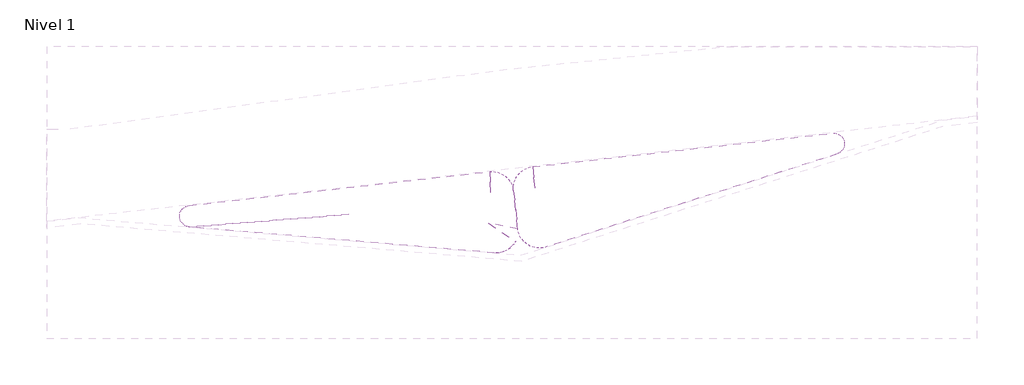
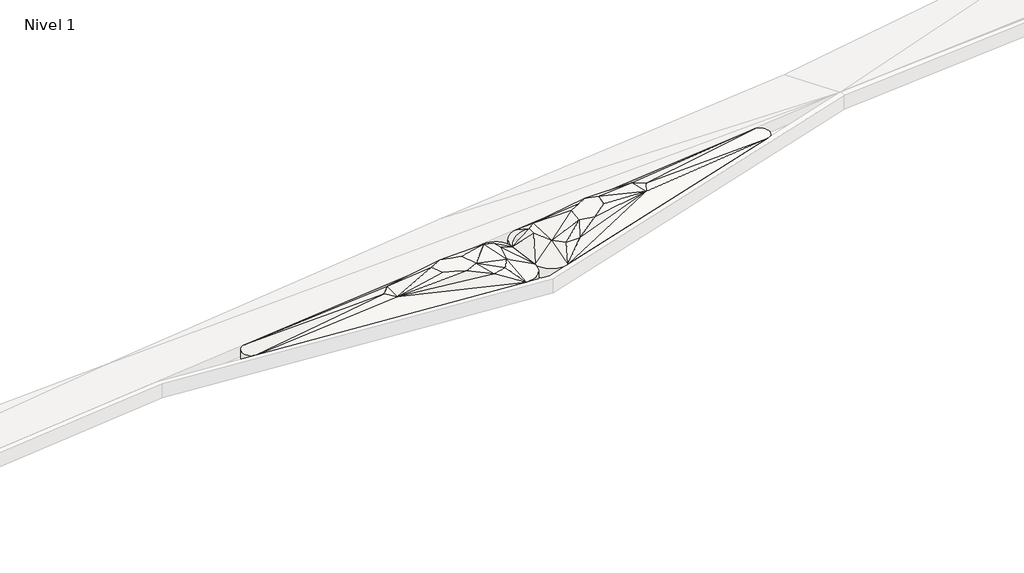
# One storey, part 16 of 45: 2 slabs.
"""IFC4 building model written with IfcOpenShell, lengths in millimetres."""

from ifc_helpers import new_model, si_unit, frame, origin, place, context, project, spatial, polyline, circle_curve, element, save
from ifc_brep_helpers import plane_surface, cylinder_surface, revolved_surface, spline_surface, advanced_brep

model = new_model("IFC4")

# Units and contexts
model_context = context("Model", 3, world=origin())
ifc_project = project(units=[si_unit("LENGTHUNIT", "METRE", prefix="MILLI")], contexts=[model_context])

# Site, building, storey
site = spatial("IfcSite", under=ifc_project)
building = spatial("IfcBuilding", under=site)
storey = spatial("IfcBuildingStorey", under=building, Name="Nivel 1", Elevation=0.0)

# Slabs
placement = place(None, origin())
element("IfcSlab", 1, ObjectType="Lippia", at=placement, inside=storey, context=model_context, shape_type="AdvancedBrep", body=[
    advanced_brep(
    [(-208217.2483904, -92052.1232078, 4850.0), (-208217.2483904, -92052.1232078, 5150.0), (-208116.8644691, -92939.8007908, 5150.0), (-208116.8644691, -92939.8007908, 4850.0), (-208657.6500706, -93494.0508119, 5150.0), (-208657.6500706, -93494.0508119, 4850.0), (-215694.0454996, -92895.9101088, 5150.0), (-215694.0454996, -92895.9101088, 4850.0), (-215699.7019788, -92398.2482784, 4850.0), (-215699.7019788, -92398.2482784, 5150.0), (-208768.0150372, -91614.481995, 5150.0), (-208768.0150372, -91614.481995, 4850.0), (-208800.2932684, -92807.5708415, 5450.0), (-208684.7787536, -92320.5047485, 5450.0), (-208800.2932684, -92807.5708415, 5150.0), (-208684.7787536, -92320.5047485, 5150.0), (-210521.9501568, -92761.7593416, 5650.0), (-210258.9210116, -92883.2718863, 5650.0), (-209995.8918664, -93004.784431, 5650.0), (-209651.0172041, -92847.7241124, 5650.0), (-209800.9157462, -92424.2190245, 5650.0), (-210081.8817119, -92357.2844661, 5650.0), (-210313.9250573, -92302.00475, 5650.0), (-210655.7768606, -92454.0387562, 5650.0), (-210521.9501568, -92761.7593416, 5350.0), (-210655.7768606, -92454.0387562, 5350.0), (-210313.9250573, -92302.00475, 5350.0), (-210081.8817119, -92357.2844661, 5350.0), (-209800.9157462, -92424.2190245, 5350.0), (-209651.0172041, -92847.7241124, 5350.0), (-209995.8918664, -93004.784431, 5350.0), (-210258.9210116, -92883.2718863, 5350.0), (-208959.422241, -92014.8028222, 5450.0), (-208742.0625932, -92095.7475028, 5450.0), (-208959.422241, -92014.8028222, 5150.0), (-208742.0625932, -92095.7475028, 5150.0), (-209004.1604189, -93108.4627505, 5450.0), (-209004.1604189, -93108.4627505, 5150.0), (-209357.928988, -93191.80275, 5450.0), (-211805.4849536, -92856.5103963, 5450.0), (-211805.4849536, -92856.5103963, 5150.0), (-209357.928988, -93191.80275, 5150.0), (-211801.730065, -92360.6512561, 5450.0), (-211801.730065, -92360.6512561, 5150.0), (-212021.5465967, -92606.9412004, 5450.0), (-212021.5465967, -92606.9412004, 5150.0)],
    [
        (0, 1),
        (1, 2),
        (2, 3),
        (3, 0),
        (2, 4, circle_curve(frame((-208613.7011199, -92995.9860682, 5150.0), z_axis=(0.0, 0.0, -1.0), x_axis=(0.19992039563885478, -0.979812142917, 0.0)), 499.9999992)),
        (4, 5),
        (5, 3, circle_curve(frame((-208613.7011199, -92995.9860682, 4850.0), z_axis=(0.0, 0.0, 1.0), x_axis=(0.19992039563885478, -0.979812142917, 0.0)), 499.9999992)),
        (4, 6),
        (6, 7),
        (7, 5),
        (8, 9),
        (9, 10),
        (10, 11),
        (11, 8),
        (10, 1, circle_curve(frame((-208713.7074066, -92111.5239263, 5150.0), z_axis=(0.0, 0.0, -1.0), x_axis=(0.19992039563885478, -0.979812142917, 0.0)), 500.0000001)),
        (0, 11, circle_curve(frame((-208713.7074066, -92111.5239263, 4850.0), z_axis=(0.0, 0.0, 1.0), x_axis=(0.19992039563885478, -0.979812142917, 0.0)), 500.0000001)),
        (2, 12),
        (12, 4),
        (1, 13),
        (13, 2),
        (5, 14),
        (14, 3),
        (3, 15),
        (15, 0),
        (16, 17),
        (17, 18),
        (18, 19),
        (19, 20),
        (20, 21),
        (21, 22),
        (22, 23),
        (23, 16),
        (24, 25),
        (25, 26),
        (26, 27),
        (27, 28),
        (28, 29),
        (29, 30),
        (30, 31),
        (31, 24),
        (20, 32),
        (32, 22),
        (10, 32),
        (32, 33),
        (33, 10),
        (19, 32),
        (26, 34),
        (34, 28),
        (11, 35),
        (35, 34),
        (34, 11),
        (34, 29),
        (32, 12),
        (12, 13),
        (13, 33),
        (19, 12),
        (12, 36),
        (36, 4),
        (35, 15),
        (15, 14),
        (14, 34),
        (14, 29),
        (5, 37),
        (37, 14),
        (4, 38),
        (38, 39),
        (39, 4),
        (19, 38),
        (38, 36),
        (36, 19),
        (5, 40),
        (40, 41),
        (41, 5),
        (29, 37),
        (37, 41),
        (41, 29),
        (22, 42),
        (42, 23),
        (23, 39),
        (39, 16),
        (39, 18),
        (25, 43),
        (43, 26),
        (24, 40),
        (40, 25),
        (30, 40),
        (42, 39),
        (40, 43),
        (1, 33),
        (35, 0),
        (10, 42),
        (42, 32),
        (42, 44),
        (44, 39),
        (18, 38),
        (34, 43),
        (43, 11),
        (40, 45),
        (45, 43),
        (41, 30),
        (6, 9, circle_curve(frame((-215672.8698284, -92646.8041783, 5150.0), z_axis=(0.0, 0.0, -1.0), x_axis=(0.19992039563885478, -0.979812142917, 0.0)), 249.9999994)),
        (8, 7, circle_curve(frame((-215672.8698284, -92646.8041783, 4850.0), z_axis=(0.0, 0.0, 1.0), x_axis=(0.19992039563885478, -0.979812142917, 0.0)), 249.9999994)),
        (9, 42),
        (9, 44),
        (6, 44),
        (6, 39),
        (43, 8),
        (45, 8),
        (45, 7),
        (40, 7),
    ],
    [
        plane_surface(frame((-208217.2483904, -92052.1232078, 4850.0), z_axis=(0.9936664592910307, 0.11236978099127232, 0.0), x_axis=(0.0, 0.0, 1.0))),
        cylinder_surface(frame((-208613.7011199, -92995.9860682, 5150.0), z_axis=(0.0, 0.0, -1.0), x_axis=(0.19992039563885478, -0.979812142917, 0.0)), 499.9999992),
        plane_surface(frame((-208657.6500706, -93494.0508119, 4850.0), z_axis=(-0.0847012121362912, -0.996406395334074, 0.0), x_axis=(0.0, 0.0, 1.0))),
        plane_surface(frame((-215699.7019788, -92398.2482784, 4850.0), z_axis=(-0.11235412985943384, 0.9936682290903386, 0.0), x_axis=(0.0, 0.0, 1.0))),
        cylinder_surface(frame((-208713.7074066, -92111.5239263, 5150.0), z_axis=(0.0, 0.0, -1.0), x_axis=(0.19992039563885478, -0.979812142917, 0.0)), 500.0000001),
        spline_surface(2, 1, [[(-208657.6500706, -93494.0508119, 5150.0), (-208800.2932684, -92807.5708415, 5450.0)], [(-208421.4321099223, -93514.89455087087, 5150.0), (-208800.2932684, -92807.5708415, 5450.0)], [(-208255.8265516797, -93345.1648083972, 5150.0), (-208800.2932684, -92807.5708415, 5450.0)], [(-208090.22099343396, -93175.43506595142, 5150.0), (-208800.2932684, -92807.5708415, 5450.0)], [(-208116.8678911, -92939.8011778, 5150.0), (-208800.2932684, -92807.5708415, 5450.0)]], [3, 2, 3], [2, 2], [0.0, 1.0, 2.0], [0.0, 1.0], weights=[[1.0, 1.0], [0.903532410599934, 0.903532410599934], [1.0, 1.0], [0.9035324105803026, 0.9035324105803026], [1.0, 1.0]]),
        plane_surface(frame((-208339.6305377, -92437.4762491, 5250.0), z_axis=(0.5152266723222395, 0.058264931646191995, 0.855071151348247), x_axis=(-0.11236978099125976, 0.9936664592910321, 0.0))),
        spline_surface(1, 2, [[(-208657.6500706, -93494.0508119, 4850.0), (-208421.4321099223, -93514.89455087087, 4850.0), (-208255.8265516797, -93345.1648083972, 4850.0), (-208090.22099343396, -93175.43506595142, 4850.0), (-208116.8678911, -92939.8011778, 4850.0)], [(-208800.2932684, -92807.5708415, 5150.0), (-208800.2932684, -92807.5708415, 5150.0), (-208800.2932684, -92807.5708415, 5150.0), (-208800.2932684, -92807.5708415, 5150.0), (-208800.2932684, -92807.5708415, 5150.0)]], [2, 2], [3, 2, 3], [0.0, 1.0], [0.0, 1.0, 2.0], weights=[[1.0, 0.903532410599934, 1.0, 0.9035324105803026, 1.0], [1.0, 0.903532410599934, 1.0, 0.9035324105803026, 1.0]]),
        plane_surface(frame((-208339.6305377, -92437.4762491, 4950.0), z_axis=(-0.5152266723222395, -0.058264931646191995, -0.855071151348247), x_axis=(-0.11236978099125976, 0.9936664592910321, 0.0))),
        plane_surface(frame((-210156.5794819, -92632.4217359, 5650.0), z_axis=(0.0, 0.0, 1.0000000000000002), x_axis=(0.9078089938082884, -0.4193838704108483, 0.0))),
        plane_surface(frame((-210156.5794819, -92632.4217359, 5350.0), z_axis=(0.0, 0.0, -1.0000000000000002), x_axis=(0.9078089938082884, -0.4193838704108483, 0.0))),
        plane_surface(frame((-209691.4210148, -92247.0088655, 5583.3333333), z_axis=(0.07402966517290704, 0.31074854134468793, 0.9476048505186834), x_axis=(0.9727766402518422, -0.23174470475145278, 0.0))),
        plane_surface(frame((-208823.1666238, -91908.3441066, 5350.0), z_axis=(0.19600328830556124, 0.5263249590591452, 0.8273842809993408), x_axis=(-0.35735341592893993, -0.7473909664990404, 0.5600939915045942))),
        plane_surface(frame((-209470.4517304, -92428.9153197, 5583.3333333), z_axis=(0.19822329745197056, 0.0701606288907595, 0.9776425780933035), x_axis=(0.628187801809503, 0.7565569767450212, -0.18166349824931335))),
        plane_surface(frame((-209691.4210148, -92247.0088655, 5283.3333333), z_axis=(-0.07402966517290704, -0.31074854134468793, -0.9476048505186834), x_axis=(0.9727766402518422, -0.23174470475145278, 0.0))),
        plane_surface(frame((-208823.1666238, -91908.3441066, 5050.0), z_axis=(-0.19600328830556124, -0.5263249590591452, -0.8273842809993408), x_axis=(-0.35735341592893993, -0.7473909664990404, 0.5600939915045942))),
        plane_surface(frame((-209470.4517304, -92428.9153197, 5283.3333333), z_axis=(-0.19822329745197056, -0.0701606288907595, -0.9776425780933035), x_axis=(0.628187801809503, 0.7565569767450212, -0.18166349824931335))),
        plane_surface(frame((-208796.6392141, -92309.6564788, 5450.0), z_axis=(0.0, 0.0, 1.0000000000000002), x_axis=(0.19680029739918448, -0.9804435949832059, 0.0))),
        plane_surface(frame((-209136.9109045, -92556.6992587, 5516.6666667), z_axis=(0.22658309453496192, 0.045481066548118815, 0.972929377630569), x_axis=(0.972434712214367, 0.04589789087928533, -0.22861346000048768))),
        plane_surface(frame((-208820.7012526, -93136.6948013, 5350.0), z_axis=(0.4239710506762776, -0.28725853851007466, 0.8589127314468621), x_axis=(-0.1870415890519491, 0.900150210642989, 0.3933764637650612))),
        plane_surface(frame((-208533.9788304, -92689.292127, 5350.0), z_axis=(0.3853808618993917, -0.09139844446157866, 0.918219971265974), x_axis=(-0.6365191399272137, 0.6941078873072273, 0.3362404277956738))),
        plane_surface(frame((-208796.6392141, -92309.6564788, 5150.0), z_axis=(0.0, 0.0, -1.0000000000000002), x_axis=(0.19680029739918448, -0.9804435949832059, 0.0))),
        plane_surface(frame((-209136.9109045, -92556.6992587, 5216.6666667), z_axis=(-0.22658309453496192, -0.045481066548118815, -0.972929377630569), x_axis=(0.972434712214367, 0.04589789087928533, -0.22861346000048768))),
        plane_surface(frame((-208820.7012526, -93136.6948013, 5050.0), z_axis=(-0.4239710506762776, 0.28725853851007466, -0.8589127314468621), x_axis=(-0.1870415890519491, 0.900150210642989, 0.3933764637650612))),
        plane_surface(frame((-208533.9788304, -92689.292127, 5050.0), z_axis=(-0.3853808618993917, 0.09139844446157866, -0.918219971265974), x_axis=(-0.6365191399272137, 0.6941078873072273, 0.3362404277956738))),
        plane_surface(frame((-209940.3546707, -93180.7879861, 5350.0), z_axis=(-0.11216215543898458, -0.8187575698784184, 0.563076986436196), x_axis=(-0.8544152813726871, 0.3687750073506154, 0.3660321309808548))),
        plane_surface(frame((-209337.7022037, -93049.329871, 5516.6666667), z_axis=(0.10211405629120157, -0.43346224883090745, 0.895367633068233), x_axis=(0.5929864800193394, -0.696152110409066, -0.40464709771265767))),
        plane_surface(frame((-209940.3546707, -93180.7879861, 5050.0), z_axis=(0.11216215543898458, 0.8187575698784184, -0.563076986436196), x_axis=(-0.8544152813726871, 0.3687750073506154, 0.3660321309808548))),
        plane_surface(frame((-209337.7022037, -93049.329871, 5216.6666667), z_axis=(-0.10211405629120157, 0.43346224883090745, -0.895367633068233), x_axis=(0.5929864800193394, -0.696152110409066, -0.40464709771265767))),
        plane_surface(frame((-210923.810661, -92372.2315874, 5583.3333333), z_axis=(-0.13864841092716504, 0.3117539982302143, 0.9399925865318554), x_axis=(0.9137124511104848, 0.40636136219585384, 0.0))),
        plane_surface(frame((-210994.4039903, -92690.769498, 5583.3333333), z_axis=(-0.14896753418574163, -0.06478550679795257, 0.9867175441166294), x_axis=(-0.3988141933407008, 0.9170317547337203, 0.0))),
        plane_surface(frame((-210774.4423256, -92874.3513897, 5583.3333333), z_axis=(-0.12794621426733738, -0.2769556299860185, 0.9523262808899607), x_axis=(-0.985458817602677, -0.0727469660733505, -0.1535538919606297))),
        plane_surface(frame((-210923.810661, -92372.2315874, 5283.3333333), z_axis=(0.13864841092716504, -0.3117539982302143, -0.9399925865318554), x_axis=(0.9137124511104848, 0.40636136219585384, 0.0))),
        plane_surface(frame((-210994.4039903, -92690.769498, 5283.3333333), z_axis=(0.14896753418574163, 0.06478550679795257, -0.9867175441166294), x_axis=(-0.3988141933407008, 0.9170317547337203, 0.0))),
        plane_surface(frame((-210774.4423256, -92874.3513897, 5283.3333333), z_axis=(0.12794621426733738, 0.2769556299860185, -0.9523262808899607), x_axis=(-0.985458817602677, -0.0727469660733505, -0.1535538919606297))),
        plane_surface(frame((-211420.9972931, -92557.0668029, 5516.6666667), z_axis=(-0.17182534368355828, 0.001301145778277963, 0.9851265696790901), x_axis=(-0.9819502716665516, 0.08002236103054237, -0.17137702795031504))),
        plane_surface(frame((-211420.9972931, -92557.0668029, 5216.6666667), z_axis=(0.17182534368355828, -0.001301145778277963, -0.9851265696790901), x_axis=(-0.9819502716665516, 0.08002236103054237, -0.17137702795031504))),
        plane_surface(frame((-208548.0299124, -92156.125153, 5350.0), z_axis=(0.4847101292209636, 0.12353798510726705, 0.8659067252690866), x_axis=(-0.8659156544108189, -0.07197777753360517, 0.4949841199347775))),
        spline_surface(2, 1, [[(-208217.2483904, -92052.1232078, 5150.0), (-208742.0625932, -92095.7475028, 5450.0)], [(-208276.04319092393, -91560.72833043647, 5150.0), (-208742.0625932, -92095.7475028, 5450.0)], [(-208768.0150372, -91614.481995, 5150.0), (-208742.0625932, -92095.7475028, 5450.0)]], [3, 3], [2, 2], [0.0, 1.0], [0.0, 1.0], weights=[[1.0, 1.0], [0.7107223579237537, 0.7107223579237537], [1.0, 1.0]]),
        plane_surface(frame((-208548.0299124, -92156.125153, 5050.0), z_axis=(-0.4847101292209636, -0.12353798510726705, -0.8659067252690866), x_axis=(-0.8659156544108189, -0.07197777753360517, 0.4949841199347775))),
        spline_surface(1, 2, [[(-208217.2483904, -92052.1232078, 4850.0), (-208276.04319092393, -91560.72833043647, 4850.0), (-208768.0150372, -91614.481995, 4850.0)], [(-208742.0625932, -92095.7475028, 5150.0), (-208742.0625932, -92095.7475028, 5150.0), (-208742.0625932, -92095.7475028, 5150.0)]], [2, 2], [3, 3], [0.0, 1.0], [0.0, 1.0], weights=[[1.0, 0.7107223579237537, 1.0], [1.0, 0.7107223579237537, 1.0]]),
        plane_surface(frame((-209151.8236305, -92921.2525681, 5516.6666667), z_axis=(0.23303992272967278, -0.15789452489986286, 0.9595632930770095), x_axis=(0.8915521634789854, -0.35937181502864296, -0.27565674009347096))),
        plane_surface(frame((-209151.8236305, -92921.2525681, 5216.6666667), z_axis=(-0.23303992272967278, 0.15789452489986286, -0.9595632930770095), x_axis=(0.8915521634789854, -0.35937181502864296, -0.27565674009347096))),
        plane_surface(frame((-209843.0557811, -91996.6453578, 5350.0), z_axis=(-0.0755451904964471, 0.6208577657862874, 0.7802746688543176), x_axis=(-0.966612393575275, -0.2377469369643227, 0.09558699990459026))),
        plane_surface(frame((-211876.2538718, -92608.0342843, 5450.0), z_axis=(0.0, 0.0, 1.0), x_axis=(0.0075722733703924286, 0.9999713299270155, 0.0))),
        plane_surface(frame((-209668.2793528, -93014.7704311, 5583.3333333), z_axis=(0.17326141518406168, -0.38044919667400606, 0.9084266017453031), x_axis=(-0.9100689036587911, -0.41445698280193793, 0.0))),
        plane_surface(frame((-209006.5798258, -93264.7721041, 5350.0), z_axis=(0.1262652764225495, -0.5359813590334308, 0.8347341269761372), x_axis=(-0.5785244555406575, 0.6437675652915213, 0.5008720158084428))),
        plane_surface(frame((-209843.0557811, -91996.6453578, 5050.0), z_axis=(0.0755451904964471, -0.6208577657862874, -0.7802746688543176), x_axis=(-0.966612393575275, -0.2377469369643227, 0.09558699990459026))),
        plane_surface(frame((-211876.2538718, -92608.0342843, 5150.0), z_axis=(0.0, 0.0, -1.0), x_axis=(0.0075722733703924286, 0.9999713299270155, 0.0))),
        plane_surface(frame((-209668.2793528, -93014.7704311, 5283.3333333), z_axis=(-0.17326141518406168, 0.38044919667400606, -0.9084266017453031), x_axis=(-0.9100689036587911, -0.41445698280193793, 0.0))),
        plane_surface(frame((-209006.5798258, -93264.7721041, 5050.0), z_axis=(-0.1262652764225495, 0.5359813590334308, -0.8347341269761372), x_axis=(-0.5785244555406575, 0.6437675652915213, 0.5008720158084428))),
        plane_surface(frame((-210358.3591211, -92225.8196094, 5516.6666667), z_axis=(-0.10323349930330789, 0.848410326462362, 0.519175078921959), x_axis=(0.9682030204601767, 0.20529287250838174, -0.14296065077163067))),
        plane_surface(frame((-210358.3591211, -92225.8196094, 5216.6666667), z_axis=(0.10323349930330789, -0.848410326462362, -0.519175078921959), x_axis=(0.9682030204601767, 0.20529287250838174, -0.14296065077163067))),
        plane_surface(frame((-210386.4352693, -93017.6991924, 5516.6666667), z_axis=(-0.12170883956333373, -0.8884461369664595, 0.44254990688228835), x_axis=(-0.9906678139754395, 0.08117311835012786, -0.10949067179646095))),
        plane_surface(frame((-210386.4352693, -93017.6991924, 5216.6666667), z_axis=(0.12170883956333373, 0.8884461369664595, -0.44254990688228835), x_axis=(-0.9906678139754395, 0.08117311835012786, -0.10949067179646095))),
        cylinder_surface(frame((-215672.8698284, -92646.8041783, 5150.0), z_axis=(0.0, 0.0, -1.0), x_axis=(0.19992039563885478, -0.979812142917, 0.0)), 249.9999994),
        plane_surface(frame((-212089.8156937, -92124.4605098, 5250.0), z_axis=(-0.06734842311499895, 0.5956344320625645, 0.8004272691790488), x_axis=(-0.9936682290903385, -0.1123541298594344, 0.0))),
        plane_surface(frame((-213174.3262135, -92455.280245, 5350.0), z_axis=(-0.07721450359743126, 0.06891480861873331, 0.9946299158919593), x_axis=(-0.9970053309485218, -0.009616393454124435, -0.07673262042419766))),
        spline_surface(2, 1, [[(-215699.7019788, -92398.2482784, 5150.0), (-212021.5465967, -92606.9412004, 5450.0)], [(-215925.4343072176, -92422.61657458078, 5150.0), (-212021.5465967, -92606.9412004, 5450.0)], [(-215922.85367836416, -92649.64573197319, 5150.0), (-212021.5465967, -92606.9412004, 5450.0)], [(-215920.27304948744, -92876.67488936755, 5150.0), (-212021.5465967, -92606.9412004, 5450.0)], [(-215694.0451314, -92895.9057765, 5150.0), (-212021.5465967, -92606.9412004, 5450.0)]], [3, 2, 3], [2, 2], [0.0, 1.0, 2.0], [0.0, 1.0], weights=[[1.0, 1.0], [0.7402773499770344, 0.7402773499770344], [1.0, 1.0], [0.7402773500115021, 0.7402773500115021], [1.0, 1.0]]),
        plane_surface(frame((-213173.69235, -92786.4539018, 5350.0), z_axis=(-0.07609019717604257, -0.06587420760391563, 0.9949225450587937), x_axis=(-0.6545296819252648, 0.7560363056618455, 0.0))),
        plane_surface(frame((-212052.393508, -93082.1571057, 5250.0), z_axis=(-0.05346487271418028, -0.6289489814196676, 0.7756060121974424), x_axis=(-0.975852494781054, 0.19764232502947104, 0.09300225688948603))),
        plane_surface(frame((-212089.8156937, -92124.4605098, 4950.0), z_axis=(0.06734842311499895, -0.5956344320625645, -0.8004272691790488), x_axis=(-0.9936682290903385, -0.1123541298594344, 0.0))),
        plane_surface(frame((-213174.3262135, -92455.280245, 5050.0), z_axis=(0.07721450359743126, -0.06891480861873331, -0.9946299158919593), x_axis=(-0.9970053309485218, -0.009616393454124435, -0.07673262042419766))),
        spline_surface(1, 2, [[(-215699.7019788, -92398.2482784, 4850.0), (-215925.4343072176, -92422.61657458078, 4850.0), (-215922.85367836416, -92649.64573197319, 4850.0), (-215920.27304948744, -92876.67488936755, 4850.0), (-215694.0451314, -92895.9057765, 4850.0)], [(-212021.5465967, -92606.9412004, 5150.0), (-212021.5465967, -92606.9412004, 5150.0), (-212021.5465967, -92606.9412004, 5150.0), (-212021.5465967, -92606.9412004, 5150.0), (-212021.5465967, -92606.9412004, 5150.0)]], [2, 2], [3, 2, 3], [0.0, 1.0], [0.0, 1.0, 2.0], weights=[[1.0, 0.7402773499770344, 1.0, 0.7402773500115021, 1.0], [1.0, 0.7402773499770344, 1.0, 0.7402773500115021, 1.0]]),
        plane_surface(frame((-213173.69235, -92786.4539018, 5050.0), z_axis=(0.07609019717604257, 0.06587420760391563, -0.9949225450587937), x_axis=(-0.6545296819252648, 0.7560363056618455, 0.0))),
        plane_surface(frame((-212052.393508, -93082.1571057, 4950.0), z_axis=(0.05346487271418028, 0.6289489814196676, -0.7756060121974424), x_axis=(-0.975852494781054, 0.19764232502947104, 0.09300225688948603))),
    ],
    [
        (0, [[1, 2, 3, 4]]),
        (1, [[-3, 5, 6, 7]]),
        (2, [[-6, 8, 9, 10]]),
        (3, [[11, 12, 13, 14]]),
        (4, [[-13, 15, -1, 16]]),
        (5, [[-5, 17, 18]]),
        (6, [[-2, 19, 20]]),
        (7, [[21, 22, -7]]),
        (8, [[23, 24, -4]]),
        (9, [[25, 26, 27, 28, 29, 30, 31, 32]]),
        (10, [[33, 34, 35, 36, 37, 38, 39, 40]]),
        (11, [[-29, 41, 42, -30]]),
        (12, [[43, 44, 45]]),
        (13, [[46, -41, -28]]),
        (14, [[-35, 47, 48, -36]]),
        (15, [[49, 50, 51]]),
        (16, [[-37, -48, 52]]),
        (17, [[53, 54, 55, -44]]),
        (18, [[56, -53, -46]]),
        (19, [[-18, 57, 58]]),
        (20, [[-20, -54, -17]]),
        (21, [[-50, 59, 60, 61]]),
        (22, [[-52, -61, 62]]),
        (23, [[63, 64, -21]]),
        (24, [[-22, -60, -23]]),
        (25, [[65, 66, 67]]),
        (26, [[68, 69, 70]]),
        (27, [[71, 72, 73]]),
        (28, [[74, 75, 76]]),
        (29, [[-31, 77, 78]]),
        (30, [[-32, 79, 80]]),
        (31, [[-80, 81, -26, -25]]),
        (32, [[82, 83, -34]]),
        (33, [[84, 85, -33]]),
        (34, [[-40, -39, 86, -84]]),
        (35, [[-78, 87, -79]]),
        (36, [[-85, 88, -82]]),
        (37, [[89, -55, -19]]),
        (38, [[-45, -89, -15]]),
        (39, [[-24, -59, 90]]),
        (40, [[-16, -90, -49]]),
        (41, [[-70, -57, -56]]),
        (42, [[-62, -64, -74]]),
        (43, [[91, 92, -43]]),
        (44, [[-87, 93, 94]]),
        (45, [[-27, 95, -68]]),
        (46, [[-58, -69, -65]]),
        (47, [[-51, 96, 97]]),
        (48, [[98, 99, -88]]),
        (49, [[-76, 100, -38]]),
        (50, [[-73, -75, -63]]),
        (51, [[-42, -92, -77]]),
        (52, [[-83, -96, -47]]),
        (53, [[-81, -66, -95]]),
        (54, [[-100, -72, -86]]),
        (55, [[-9, 101, -11, 102]]),
        (56, [[-12, 103, -91]]),
        (57, [[-103, 104, -93]]),
        (58, [[-104, -101, 105]]),
        (59, [[-94, -105, 106]]),
        (60, [[-67, -106, -8]]),
        (61, [[-97, 107, -14]]),
        (62, [[-99, 108, -107]]),
        (63, [[109, -102, -108]]),
        (64, [[110, -109, -98]]),
        (65, [[-10, -110, -71]]),
    ],
),
])
element("IfcSlab", 2, ObjectType="Lippia", at=placement, inside=storey, context=model_context, shape_type="AdvancedBrep", body=[
    advanced_brep(
    [(-208114.2598634, -92962.9724029, 4850.0), (-208114.2598634, -92962.9724029, 5150.0), (-208216.6433339, -92052.1142331, 5150.0), (-208216.6433339, -92052.1142331, 4850.0), (-207438.7838699, -93348.9251333, 4850.0), (-207438.7838699, -93348.9251333, 5150.0), (-200752.0972861, -91212.8737636, 4850.0), (-200752.0972861, -91212.8737636, 5150.0), (-207777.1476729, -91502.8262447, 4850.0), (-207777.1476729, -91502.8262447, 5150.0), (-200825.0015899, -90724.7609786, 5150.0), (-200825.0015899, -90724.7609786, 4850.0), (-206270.5316365, -92584.8292438, 5650.0), (-205811.7910318, -92230.7733491, 5650.0), (-205763.4491195, -91901.2827719, 5650.0), (-206086.934053, -91808.4139119, 5650.0), (-206330.8721408, -91934.4374529, 5650.0), (-206612.2977792, -92068.1070354, 5650.0), (-206641.719593, -92508.5011534, 5650.0), (-207491.0695981, -92664.254138, 5450.0), (-207714.2845911, -92211.0140711, 5450.0), (-206270.5316365, -92584.8292438, 5350.0), (-206641.719593, -92508.5011534, 5350.0), (-206612.2977792, -92068.1070354, 5350.0), (-206330.8721408, -91934.4374529, 5350.0), (-206086.934053, -91808.4139119, 5350.0), (-205763.4491195, -91901.2827719, 5350.0), (-205811.7910318, -92230.7733491, 5350.0), (-207491.0695981, -92664.254138, 5150.0), (-207714.2845911, -92211.0140711, 5150.0), (-204552.6177798, -92037.8892229, 5450.0), (-204666.8023136, -91555.3419818, 5450.0), (-204552.6177798, -92037.8892229, 5150.0), (-204666.8023136, -91555.3419818, 5150.0), (-207515.877324, -91851.8973859, 5450.0), (-207719.4211269, -91999.4827115, 5450.0), (-207515.877324, -91851.8973859, 5150.0), (-207719.4211269, -91999.4827115, 5150.0), (-207225.6496744, -92908.6021771, 5450.0), (-207225.6496744, -92908.6021771, 5150.0), (-206864.8877506, -92910.7316256, 5450.0), (-206864.8877506, -92910.7316256, 5150.0), (-204397.6246137, -91746.4367641, 5450.0), (-204397.6246137, -91746.4367641, 5150.0)],
    [
        (0, 1),
        (1, 2),
        (2, 3),
        (3, 0),
        (4, 5),
        (5, 1, circle_curve(frame((-207620.6677066, -92883.1802778, 5150.0), z_axis=(0.0, 0.0, -1.0), x_axis=(0.9033312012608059, -0.42894375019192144, 0.0)), 500.0000005)),
        (0, 4, circle_curve(frame((-207620.6677066, -92883.1802778, 4850.0), z_axis=(0.0, 0.0, 1.0), x_axis=(0.9033312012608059, -0.42894375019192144, 0.0)), 500.0000005)),
        (6, 7),
        (7, 5),
        (4, 6),
        (8, 9),
        (9, 10),
        (10, 11),
        (11, 8),
        (2, 9, circle_curve(frame((-207719.4211269, -91999.4827115, 5150.0), z_axis=(0.0, 0.0, -1.0), x_axis=(0.9033312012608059, -0.42894375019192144, 0.0)), 500.0000001)),
        (8, 3, circle_curve(frame((-207719.4211269, -91999.4827115, 4850.0), z_axis=(0.0, 0.0, 1.0), x_axis=(0.9033312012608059, -0.42894375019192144, 0.0)), 500.0000001)),
        (12, 13),
        (13, 14),
        (14, 15),
        (15, 16),
        (16, 17),
        (17, 18),
        (18, 12),
        (5, 19),
        (19, 1),
        (1, 20),
        (20, 2),
        (21, 22),
        (22, 23),
        (23, 24),
        (24, 25),
        (25, 26),
        (26, 27),
        (27, 21),
        (0, 28),
        (28, 4),
        (3, 29),
        (29, 0),
        (13, 30),
        (30, 14),
        (14, 31),
        (31, 15),
        (26, 32),
        (32, 27),
        (25, 33),
        (33, 26),
        (30, 31),
        (12, 30),
        (33, 32),
        (32, 21),
        (34, 9),
        (9, 35),
        (35, 34),
        (16, 34),
        (34, 17),
        (36, 37),
        (37, 8),
        (8, 36),
        (23, 36),
        (36, 24),
        (2, 35),
        (35, 20),
        (20, 19),
        (19, 34),
        (37, 3),
        (36, 28),
        (28, 29),
        (29, 37),
        (19, 17),
        (19, 18),
        (5, 38),
        (38, 19),
        (23, 28),
        (22, 28),
        (28, 39),
        (39, 4),
        (40, 18),
        (18, 38),
        (38, 40),
        (40, 5),
        (5, 30),
        (30, 40),
        (41, 39),
        (39, 22),
        (22, 41),
        (41, 32),
        (32, 4),
        (4, 41),
        (34, 15),
        (31, 34),
        (31, 9),
        (36, 33),
        (25, 36),
        (8, 33),
        (40, 12),
        (21, 41),
        (42, 31),
        (30, 42),
        (43, 32),
        (33, 43),
        (10, 7, circle_curve(frame((-200828.2058953, -90974.7404416, 5150.0), z_axis=(0.0, 0.0, -1.0), x_axis=(0.9033312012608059, -0.42894375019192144, 0.0)), 249.999999)),
        (6, 11, circle_curve(frame((-200828.2058953, -90974.7404416, 4850.0), z_axis=(0.0, 0.0, 1.0), x_axis=(0.9033312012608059, -0.42894375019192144, 0.0)), 249.999999)),
        (31, 10),
        (42, 10),
        (42, 7),
        (30, 7),
        (11, 33),
        (11, 43),
        (6, 43),
        (6, 32),
    ],
    [
        plane_surface(frame((-208114.2598634, -92962.9724029, 4850.0), z_axis=(-0.99374198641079, -0.11169988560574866, 0.0), x_axis=(0.0, 0.0, 1.0))),
        cylinder_surface(frame((-207620.6677066, -92883.1802778, 5150.0), z_axis=(0.0, 0.0, -1.0), x_axis=(0.9033312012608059, -0.42894375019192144, 0.0)), 500.0000005),
        plane_surface(frame((-200752.0972861, -91212.8737636, 4850.0), z_axis=(0.304299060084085, -0.9525765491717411, 0.0), x_axis=(0.0, 0.0, 1.0))),
        plane_surface(frame((-207777.1476729, -91502.8262447, 4850.0), z_axis=(-0.11122288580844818, 0.9937954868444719, 0.0), x_axis=(0.0, 0.0, 1.0))),
        cylinder_surface(frame((-207719.4211269, -91999.4827115, 5150.0), z_axis=(0.0, 0.0, -1.0), x_axis=(0.9033312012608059, -0.42894375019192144, 0.0)), 500.0000001),
        plane_surface(frame((-206216.7993362, -92148.0492741, 5650.0), z_axis=(0.0, 0.0, 1.0), x_axis=(0.7916401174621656, 0.6109876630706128, 0.0))),
        spline_surface(2, 1, [[(-208114.2598634, -92962.9724029, 5150.0), (-207491.0695981, -92664.254138, 5450.0)], [(-208076.13727569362, -93198.79780879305, 5150.0), (-207491.0695981, -92664.254138, 5450.0)], [(-207868.72092010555, -93317.31113797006, 5150.0), (-207491.0695981, -92664.254138, 5450.0)], [(-207661.30456452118, -93435.82446714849, 5150.0), (-207491.0695981, -92664.254138, 5450.0)], [(-207438.7838699, -93348.9251333, 5150.0), (-207491.0695981, -92664.254138, 5450.0)]], [3, 2, 3], [2, 2], [0.0, 1.0, 2.0], [0.0, 1.0], weights=[[1.0, 1.0], [0.9023052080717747, 0.9023052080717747], [1.0, 1.0], [0.9023052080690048, 0.9023052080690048], [1.0, 1.0]]),
        plane_surface(frame((-208015.0625961, -92408.7002357, 5250.0), z_axis=(-0.5255276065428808, -0.059071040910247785, 0.8487233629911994), x_axis=(0.11169988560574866, -0.99374198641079, 0.0))),
        plane_surface(frame((-206216.7993362, -92148.0492741, 5350.0), z_axis=(0.0, 0.0, -1.0), x_axis=(0.7916401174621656, 0.6109876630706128, 0.0))),
        spline_surface(1, 2, [[(-208114.2598634, -92962.9724029, 4850.0), (-208076.13727569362, -93198.79780879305, 4850.0), (-207868.72092010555, -93317.31113797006, 4850.0), (-207661.30456452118, -93435.82446714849, 4850.0), (-207438.7838699, -93348.9251333, 4850.0)], [(-207491.0695981, -92664.254138, 5150.0), (-207491.0695981, -92664.254138, 5150.0), (-207491.0695981, -92664.254138, 5150.0), (-207491.0695981, -92664.254138, 5150.0), (-207491.0695981, -92664.254138, 5150.0)]], [2, 2], [3, 2, 3], [0.0, 1.0], [0.0, 1.0, 2.0], weights=[[1.0, 0.9023052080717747, 1.0, 0.9023052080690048, 1.0], [1.0, 0.9023052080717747, 1.0, 0.9023052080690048, 1.0]]),
        plane_surface(frame((-208015.0625961, -92408.7002357, 4950.0), z_axis=(0.5255276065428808, 0.059071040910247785, -0.8487233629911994), x_axis=(0.11169988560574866, -0.99374198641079, 0.0))),
        plane_surface(frame((-205375.9526437, -92056.648448, 5583.3333333), z_axis=(0.16033840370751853, -0.02352439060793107, 0.9867817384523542), x_axis=(-0.14516306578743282, -0.9894077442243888, 0.0))),
        plane_surface(frame((-205505.7284954, -91755.0128885, 5583.3333333), z_axis=(0.0828821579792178, 0.2886988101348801, 0.9538257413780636), x_axis=(0.9611742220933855, -0.27594223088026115, 0.0))),
        plane_surface(frame((-205375.9526437, -92056.648448, 5283.3333333), z_axis=(-0.16033840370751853, 0.02352439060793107, -0.9867817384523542), x_axis=(-0.14516306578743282, -0.9894077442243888, 0.0))),
        plane_surface(frame((-205505.7284954, -91755.0128885, 5283.3333333), z_axis=(-0.0828821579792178, -0.2886988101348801, -0.9538257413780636), x_axis=(0.9611742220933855, -0.27594223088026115, 0.0))),
        plane_surface(frame((-204994.2897376, -91831.5046589, 5516.6666667), z_axis=(0.16718312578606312, 0.03956032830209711, 0.9851318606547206), x_axis=(-0.9395695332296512, -0.29639025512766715, 0.17135317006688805))),
        plane_surface(frame((-205544.9801493, -92284.4972719, 5583.3333333), z_axis=(0.18849869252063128, -0.24423263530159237, 0.951219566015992), x_axis=(-0.9765078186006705, -0.14958454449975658, 0.15510301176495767))),
        plane_surface(frame((-204994.2897376, -91831.5046589, 5216.6666667), z_axis=(-0.16718312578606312, -0.03956032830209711, -0.9851318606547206), x_axis=(-0.9395695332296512, -0.29639025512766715, 0.17135317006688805))),
        plane_surface(frame((-205544.9801493, -92284.4972719, 5283.3333333), z_axis=(-0.18849869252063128, 0.24423263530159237, -0.951219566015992), x_axis=(-0.9765078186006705, -0.14958454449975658, 0.15510301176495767))),
        plane_surface(frame((-207670.8153746, -91784.7354473, 5350.0), z_axis=(-0.3327619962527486, 0.45893209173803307, 0.8238026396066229), x_axis=(-0.4936550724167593, 0.6595495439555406, -0.5668324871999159))),
        plane_surface(frame((-206819.6824147, -91951.4806247, 5583.3333333), z_axis=(-0.13922505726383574, 0.2931220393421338, 0.9458836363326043), x_axis=(0.9032869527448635, 0.42903692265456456, 0.0))),
        plane_surface(frame((-207670.8153746, -91784.7354473, 5050.0), z_axis=(0.3327619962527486, -0.45893209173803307, -0.8238026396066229), x_axis=(-0.4936550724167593, 0.6595495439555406, -0.5668324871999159))),
        plane_surface(frame((-206819.6824147, -91951.4806247, 5283.3333333), z_axis=(0.13922505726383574, -0.2931220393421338, -0.9458836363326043), x_axis=(0.9032869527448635, 0.42903692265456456, 0.0))),
        revolved_surface(polyline([(-207719.4211269, -91999.4827115, 5450.0), (-207777.1476729, -91502.8262447, 5150.0)]), (-207719.4211269, -91999.4827115, 5450.0), (0.0, 0.0, -1.0)),
        plane_surface(frame((-207610.16316, -92181.6620766, 5450.0), z_axis=(0.0, 0.0, 1.0), x_axis=(0.024275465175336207, -0.9997053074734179, 0.0))),
        plane_surface(frame((-207883.449684, -92087.5370052, 5350.0), z_axis=(-0.5155921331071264, -0.012519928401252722, 0.8567426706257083), x_axis=(-0.8527290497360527, -0.09026231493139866, -0.5144957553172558))),
        revolved_surface(polyline([(-208216.6433339, -92052.1142331, 4850.0), (-207719.4211269, -91999.4827115, 5150.0)]), (-207719.4211269, -91999.4827115, 5150.0), (0.0, 0.0, -1.0)),
        plane_surface(frame((-207610.16316, -92181.6620766, 5150.0), z_axis=(0.0, 0.0, -1.0), x_axis=(0.024275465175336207, -0.9997053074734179, 0.0))),
        plane_surface(frame((-207883.449684, -92087.5370052, 5050.0), z_axis=(0.5155921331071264, 0.012519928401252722, -0.8567426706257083), x_axis=(-0.8527290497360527, -0.09026231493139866, -0.5144957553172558))),
        plane_surface(frame((-207206.4149004, -92194.7528531, 5516.6666667), z_axis=(-0.21762219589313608, -0.0066457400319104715, 0.9760104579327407), x_axis=(0.8132484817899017, 0.5516969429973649, 0.18508751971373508))),
        plane_surface(frame((-206915.0289901, -92413.6207756, 5583.3333333), z_axis=(-0.2318684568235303, 0.015490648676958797, 0.9726238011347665), x_axis=(0.9582325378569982, 0.17571975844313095, 0.22563902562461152))),
        plane_surface(frame((-207385.1677141, -92973.9271495, 5350.0), z_axis=(-0.3653469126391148, -0.39685339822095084, 0.8420386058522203), x_axis=(0.06977584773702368, -0.9137005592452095, -0.40035311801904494))),
        plane_surface(frame((-207773.2046842, -92612.7468707, 5350.0), z_axis=(-0.35724436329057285, -0.17593832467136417, 0.9172906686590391), x_axis=(-0.44293709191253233, -0.8327270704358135, -0.33222335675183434))),
        plane_surface(frame((-207206.4149004, -92194.7528531, 5216.6666667), z_axis=(0.21762219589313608, 0.0066457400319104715, -0.9760104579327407), x_axis=(0.8132484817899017, 0.5516969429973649, 0.18508751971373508))),
        plane_surface(frame((-206915.0289901, -92413.6207756, 5283.3333333), z_axis=(0.2318684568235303, -0.015490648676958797, -0.9726238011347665), x_axis=(0.9582325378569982, 0.17571975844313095, 0.22563902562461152))),
        plane_surface(frame((-207385.1677141, -92973.9271495, 5050.0), z_axis=(0.3653469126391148, 0.39685339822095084, -0.8420386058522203), x_axis=(0.06977584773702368, -0.9137005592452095, -0.40035311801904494))),
        plane_surface(frame((-207773.2046842, -92612.7468707, 5050.0), z_axis=(0.35724436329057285, 0.17593832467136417, -0.9172906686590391), x_axis=(-0.44293709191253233, -0.8327270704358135, -0.33222335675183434))),
        plane_surface(frame((-206910.7523393, -92775.9449854, 5516.6666667), z_axis=(-0.002621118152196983, -0.4440584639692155, 0.8959939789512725), x_axis=(0.44492071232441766, 0.8019095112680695, 0.398731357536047))),
        plane_surface(frame((-206285.4298001, -92765.8486606, 5350.0), z_axis=(0.2905509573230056, -0.7697062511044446, 0.5684473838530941), x_axis=(-0.7339747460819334, -0.5604201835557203, -0.38367993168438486))),
        plane_surface(frame((-206910.7523393, -92775.9449854, 5216.6666667), z_axis=(0.002621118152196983, 0.4440584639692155, -0.8959939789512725), x_axis=(0.44492071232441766, 0.8019095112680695, 0.398731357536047))),
        plane_surface(frame((-206285.4298001, -92765.8486606, 5050.0), z_axis=(-0.2905509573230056, 0.7697062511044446, -0.5684473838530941), x_axis=(-0.7339747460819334, -0.5604201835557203, -0.38367993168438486))),
        plane_surface(frame((-207119.4796218, -92693.7858228, 5516.6666667), z_axis=(-0.18859455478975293, -0.204858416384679, 0.9604504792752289), x_axis=(0.7938529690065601, 0.5439373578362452, 0.2719000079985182))),
        plane_surface(frame((-207119.4796218, -92693.7858228, 5216.6666667), z_axis=(0.18859455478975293, 0.204858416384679, -0.9604504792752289), x_axis=(0.7938529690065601, 0.5439373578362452, 0.2719000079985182))),
        plane_surface(frame((-206089.8712302, -91738.5510932, 5516.6666667), z_axis=(-0.09172331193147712, 0.881206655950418, 0.46374741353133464), x_axis=(0.9898972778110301, 0.030123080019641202, 0.1385495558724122))),
        plane_surface(frame((-206644.5611726, -91864.9162502, 5583.3333333), z_axis=(-0.1414819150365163, 0.2738601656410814, 0.9513061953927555), x_axis=(0.9837370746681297, -0.06852098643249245, 0.16603084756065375))),
        plane_surface(frame((-206653.2757702, -91636.6885375, 5350.0), z_axis=(-0.06475356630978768, 0.6221021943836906, 0.7802536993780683), x_axis=(-0.9952401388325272, 0.01680384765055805, -0.09599321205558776))),
        plane_surface(frame((-206089.8712302, -91738.5510932, 5216.6666667), z_axis=(0.09172331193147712, -0.881206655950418, -0.46374741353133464), x_axis=(0.9898972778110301, 0.030123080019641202, 0.1385495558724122))),
        plane_surface(frame((-206644.5611726, -91864.9162502, 5283.3333333), z_axis=(0.1414819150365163, -0.2738601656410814, -0.9513061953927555), x_axis=(0.9837370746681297, -0.06852098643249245, 0.16603084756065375))),
        plane_surface(frame((-206653.2757702, -91636.6885375, 5050.0), z_axis=(0.06475356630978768, -0.6221021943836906, -0.7802536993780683), x_axis=(-0.9952401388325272, 0.01680384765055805, -0.09599321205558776))),
        plane_surface(frame((-206592.37966, -92668.0206743, 5583.3333333), z_axis=(-0.0835143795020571, -0.40613529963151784, 0.9099887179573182), x_axis=(-0.9795054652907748, 0.20141758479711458, 0.0))),
        plane_surface(frame((-205896.012389, -92511.1500308, 5516.6666667), z_axis=(0.31900071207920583, -0.8450732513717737, 0.4290568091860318), x_axis=(-0.947063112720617, -0.3015207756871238, 0.11025734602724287))),
        plane_surface(frame((-206592.37966, -92668.0206743, 5283.3333333), z_axis=(0.0835143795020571, 0.40613529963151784, -0.9099887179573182), x_axis=(-0.9795054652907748, 0.20141758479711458, 0.0))),
        plane_surface(frame((-205896.012389, -92511.1500308, 5216.6666667), z_axis=(-0.31900071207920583, 0.8450732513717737, -0.4290568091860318), x_axis=(-0.947063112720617, -0.3015207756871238, 0.11025734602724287))),
        plane_surface(frame((-204539.0149023, -91779.889323, 5450.0), z_axis=(0.0, 0.0, 1.0), x_axis=(-0.8154135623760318, 0.5788788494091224, 0.0))),
        plane_surface(frame((-207176.4404316, -93056.086312, 5350.0), z_axis=(-0.0033170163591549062, -0.5619545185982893, 0.8271614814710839), x_axis=(-0.3714072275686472, -0.7673059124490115, -0.5227794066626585))),
        plane_surface(frame((-204539.0149023, -91779.889323, 5150.0), z_axis=(0.0, 0.0, -1.0), x_axis=(-0.8154135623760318, 0.5788788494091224, 0.0))),
        plane_surface(frame((-207176.4404316, -93056.086312, 5050.0), z_axis=(0.0033170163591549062, 0.5619545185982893, -0.8271614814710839), x_axis=(-0.3714072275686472, -0.7673059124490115, -0.5227794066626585))),
        cylinder_surface(frame((-200828.2058953, -90974.7404416, 5150.0), z_axis=(0.0, 0.0, -1.0), x_axis=(0.9033312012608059, -0.42894375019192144, 0.0)), 249.999999),
        plane_surface(frame((-204422.9838588, -91260.9764017, 5250.0), z_axis=(-0.06693366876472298, 0.5980637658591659, 0.7986486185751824), x_axis=(-0.9937954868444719, -0.11122288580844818, 0.0))),
        plane_surface(frame((-203296.4761724, -91342.1799082, 5350.0), z_axis=(0.05954167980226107, 0.08387090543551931, 0.9946961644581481), x_axis=(-0.9745836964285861, -0.21070085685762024, 0.07610366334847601))),
        spline_surface(2, 1, [[(-200752.0972861, -91212.8737636, 5150.0), (-204397.6246137, -91746.4367641, 5450.0)], [(-200549.53479408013, -91148.1337708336, 5150.0), (-204397.6246137, -91746.4367641, 5450.0)], [(-200580.94862584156, -90937.81020817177, 5150.0), (-204397.6246137, -91746.4367641, 5450.0)], [(-200612.36245769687, -90727.48664550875, 5150.0), (-204397.6246137, -91746.4367641, 5450.0)], [(-200825.0015899, -90724.7609786, 5150.0), (-204397.6246137, -91746.4367641, 5450.0)]], [3, 2, 3], [2, 2], [0.0, 1.0, 2.0], [0.0, 1.0], weights=[[1.0, 1.0], [0.7617038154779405, 0.7617038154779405], [1.0, 1.0], [0.7617038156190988, 0.7617038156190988], [1.0, 1.0]]),
        plane_surface(frame((-203234.1132265, -91665.7332502, 5350.0), z_axis=(0.08878606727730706, -0.04721604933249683, 0.9949309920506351), x_axis=(-0.4695309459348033, -0.8829160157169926, 0.0))),
        plane_surface(frame((-204247.8329786, -92199.8960399, 5250.0), z_axis=(0.19145937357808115, -0.5993436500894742, 0.7772583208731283), x_axis=(-0.9064183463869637, -0.41173895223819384, -0.09421685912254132))),
        plane_surface(frame((-204422.9838588, -91260.9764017, 4950.0), z_axis=(0.06693366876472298, -0.5980637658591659, -0.7986486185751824), x_axis=(-0.9937954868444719, -0.11122288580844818, 0.0))),
        plane_surface(frame((-203296.4761724, -91342.1799082, 5050.0), z_axis=(-0.05954167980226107, -0.08387090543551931, -0.9946961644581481), x_axis=(-0.9745836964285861, -0.21070085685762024, 0.07610366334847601))),
        spline_surface(1, 2, [[(-200752.0972861, -91212.8737636, 4850.0), (-200549.53479408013, -91148.1337708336, 4850.0), (-200580.94862584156, -90937.81020817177, 4850.0), (-200612.36245769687, -90727.48664550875, 4850.0), (-200825.0015899, -90724.7609786, 4850.0)], [(-204397.6246137, -91746.4367641, 5150.0), (-204397.6246137, -91746.4367641, 5150.0), (-204397.6246137, -91746.4367641, 5150.0), (-204397.6246137, -91746.4367641, 5150.0), (-204397.6246137, -91746.4367641, 5150.0)]], [2, 2], [3, 2, 3], [0.0, 1.0], [0.0, 1.0, 2.0], weights=[[1.0, 0.7617038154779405, 1.0, 0.7617038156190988, 1.0], [1.0, 0.7617038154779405, 1.0, 0.7617038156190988, 1.0]]),
        plane_surface(frame((-203234.1132265, -91665.7332502, 5050.0), z_axis=(-0.08878606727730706, 0.04721604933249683, -0.9949309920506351), x_axis=(-0.4695309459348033, -0.8829160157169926, 0.0))),
        plane_surface(frame((-204247.8329786, -92199.8960399, 4950.0), z_axis=(-0.19145937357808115, 0.5993436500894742, -0.7772583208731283), x_axis=(-0.9064183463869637, -0.41173895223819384, -0.09421685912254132))),
    ],
    [
        (0, [[1, 2, 3, 4]]),
        (1, [[5, 6, -1, 7]]),
        (2, [[8, 9, -5, 10]]),
        (3, [[11, 12, 13, 14]]),
        (4, [[-3, 15, -11, 16]]),
        (5, [[17, 18, 19, 20, 21, 22, 23]]),
        (6, [[-6, 24, 25]]),
        (7, [[-2, 26, 27]]),
        (8, [[28, 29, 30, 31, 32, 33, 34]]),
        (9, [[35, 36, -7]]),
        (10, [[37, 38, -4]]),
        (11, [[-18, 39, 40]]),
        (12, [[-19, 41, 42]]),
        (13, [[43, 44, -33]]),
        (14, [[45, 46, -32]]),
        (15, [[-41, -40, 47]]),
        (16, [[-39, -17, 48]]),
        (17, [[49, -43, -46]]),
        (18, [[50, -34, -44]]),
        (19, [[51, 52, 53]]),
        (20, [[-21, 54, 55]]),
        (21, [[56, 57, 58]]),
        (22, [[59, 60, -30]]),
        (23, [[-52, -15, 61]]),
        (24, [[62, 63, 64, -53]]),
        (25, [[-61, -27, -62]]),
        (26, [[65, -16, -57]]),
        (27, [[-56, 66, 67, 68]]),
        (28, [[-68, -37, -65]]),
        (29, [[69, -55, -64]]),
        (30, [[70, -22, -69]]),
        (31, [[-24, 71, 72]]),
        (32, [[-26, -25, -63]]),
        (33, [[-66, -59, 73]]),
        (34, [[-73, -29, 74]]),
        (35, [[75, 76, -36]]),
        (36, [[-67, -35, -38]]),
        (37, [[77, 78, 79]]),
        (38, [[80, 81, 82]]),
        (39, [[83, 84, 85]]),
        (40, [[86, 87, 88]]),
        (41, [[-78, -70, -72]]),
        (42, [[-75, -74, -84]]),
        (43, [[89, -42, 90]]),
        (44, [[-54, -20, -89]]),
        (45, [[91, -51, -90]]),
        (46, [[92, -45, 93]]),
        (47, [[-93, -31, -60]]),
        (48, [[-92, -58, 94]]),
        (49, [[-23, -77, 95]]),
        (50, [[-48, -95, -82]]),
        (51, [[96, -85, -28]]),
        (52, [[-86, -96, -50]]),
        (53, [[97, -47, 98]]),
        (54, [[-71, -80, -79]]),
        (55, [[99, -49, 100]]),
        (56, [[-83, -88, -76]]),
        (57, [[-13, 101, -8, 102]]),
        (58, [[-12, -91, 103]]),
        (59, [[-103, -97, 104]]),
        (60, [[-104, 105, -101]]),
        (61, [[-98, 106, -105]]),
        (62, [[-81, -9, -106]]),
        (63, [[107, -94, -14]]),
        (64, [[108, -100, -107]]),
        (65, [[-102, 109, -108]]),
        (66, [[-109, 110, -99]]),
        (67, [[-110, -10, -87]]),
    ],
),
])

save(model, "model.ifc")
